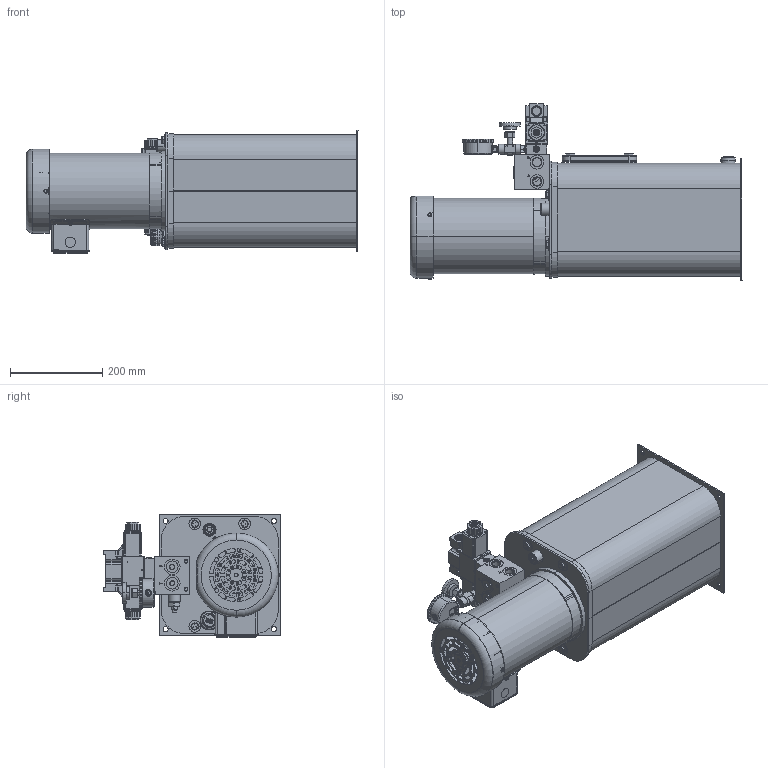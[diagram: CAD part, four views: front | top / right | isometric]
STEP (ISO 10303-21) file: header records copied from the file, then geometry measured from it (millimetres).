
FILE_DESCRIPTION (( 'STEP AP214' ), '1' );
FILE_NAME ('T5V-20-M-P1-XX-069.STEP', '2021-09-08T14:46:18', ( '' ), ( '' ), 'SwSTEP 2.0', 'SolidWorks 2020', '' );
FILE_SCHEMA (( 'AUTOMOTIVE_DESIGN' ));
Length unit declared in the file: inch
Products named in the file (1): T5V-20-M-P1-XX-069
Bounding box: 720.75 x 383.81 x 267.54 mm (x, y, z)
Surface area: 1116248 mm2 (no closed solid volume)
Topology: 0 solids, 143 shells, 1737 faces, 7988 edges, 6166 vertices
Faces by surface type: plane 698, cylinder 583, cone 167, bspline 162, torus 97, sphere 30
Entity records: 139609 total; most frequent: CARTESIAN_POINT 56590, DIRECTION 11806, ORIENTED_EDGE 11231, EDGE_CURVE 7963, VERTEX_POINT 6166, VECTOR 3936, LINE 3936, AXIS2_PLACEMENT_3D 3935
